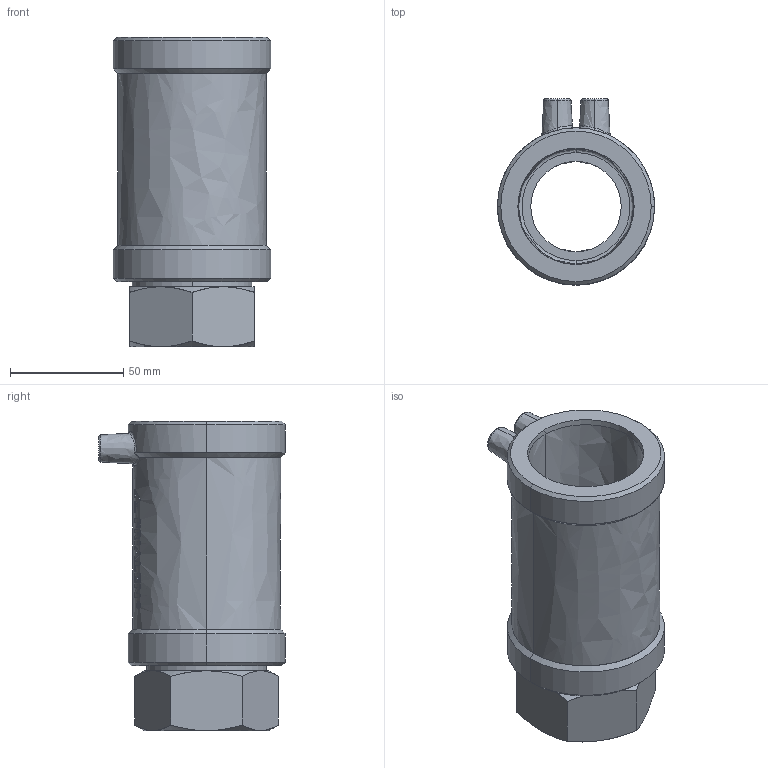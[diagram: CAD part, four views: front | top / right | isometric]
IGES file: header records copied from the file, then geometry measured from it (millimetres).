
Start section:  PTC IGES file: ustm_d50_1_1-2_01.igs
Global section: file name: ustm_d50_1_1-2_01.igs; native system: Pro/ENGINEER by Parametric Technology Corporation; preprocessor: 2011490; author: mtunjic; organization: Unknown; date: 20130823.112855; units: millimetre
Bounding box: 69.5 x 82.4 x 136.8 mm (x, y, z)
Surface area: 58101.8 mm2 (no closed solid volume)
Topology: 0 solids, 0 shells, 216 faces, 1102 edges, 1102 vertices
Faces by surface type: bspline 216
